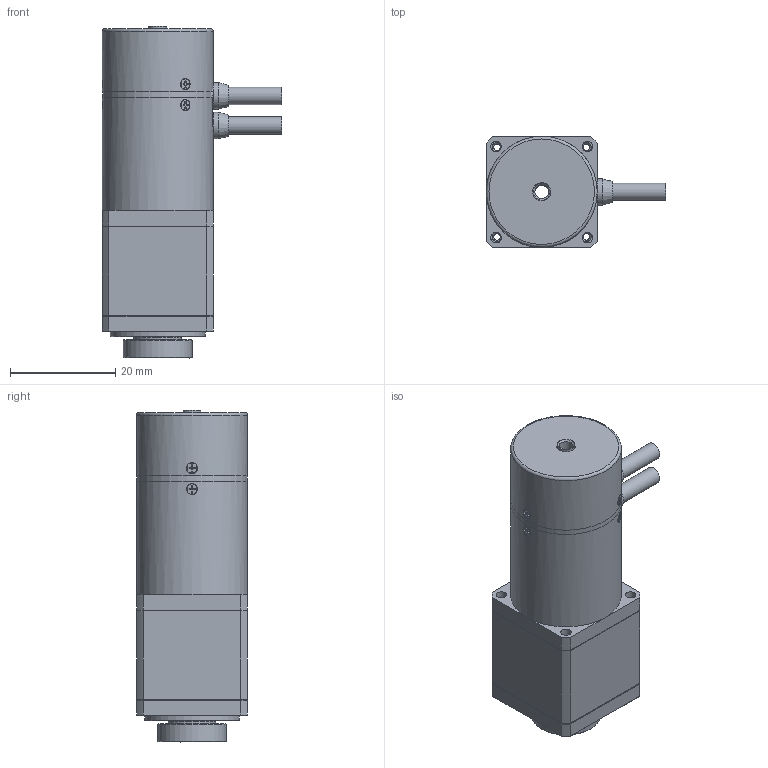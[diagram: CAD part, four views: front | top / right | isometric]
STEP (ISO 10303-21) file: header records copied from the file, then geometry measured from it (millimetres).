
FILE_DESCRIPTION(('STEP AP203'),'1');
FILE_NAME('MDH-2012-G09SH.stp','2020-11-16T05:11:27',(' '),(' '),'Spatial InterOp 3D',' ',' ');
FILE_SCHEMA(('CONFIG_CONTROL_DESIGN'));
Length unit declared in the file: millimetre
Products named in the file (15): MDH-2012-G09SH_配布用中埋め; ナベコネジ M1.2X3; タップネジ M1.4X2.2; サラコネジ M1.4X2.5; 14芯屈曲ケーブル(3.3)0.3-HRS; ケーブル; ブッシュ; 3芯屈曲ケーブル(3.3)0.3M-TE
Assembly tree (14 placements, depth 3):
  MDH-2012-G09SH_配布用中埋め
    MDH-2012-G09SH_配布用中埋め
    ナベコネジ M1.2X3
    タップネジ M1.4X2.2
    タップネジ M1.4X2.2
    タップネジ M1.4X2.2
    サラコネジ M1.4X2.5
    サラコネジ M1.4X2.5
    サラコネジ M1.4X2.5
    14芯屈曲ケーブル(3.3)0.3-HRS
      ケーブル
      ブッシュ
    3芯屈曲ケーブル(3.3)0.3M-TE
      ケーブル
      ブッシュ
Bounding box: 34 x 21 x 62.95 mm (x, y, z)
Volume: 22291.8 mm3; surface area: 7835 mm2
Topology: 12 solids, 16 shells, 380 faces, 870 edges, 547 vertices
Faces by surface type: plane 212, cylinder 97, cone 63, torus 7, bspline 1
Full cylindrical faces by diameter (mm): 1.2 x2, 1.25 x8, 1.4 x6, 1.5 x3, 1.6 x6, 2 x14, 2.1 x3, 2.6 x3, 3.3 x4, 3.4 x1, 3.5 x1, 4 x1, 5 x2, 6 x1, 8 x2, 9 x1, 9.2 x2, 9.86 x2, 12.19 x2, 12.8 x2, 13 x1, 14 x2, 18 x1, 20 x1, 21 x2
Entity records: 11166 total; most frequent: CARTESIAN_POINT 2307, DIRECTION 1647, ORIENTED_EDGE 1376, EDGE_CURVE 688, AXIS2_PLACEMENT_3D 632, EDGE_LOOP 556, VERTEX_POINT 498, FACE_OUTER_BOUND 461
